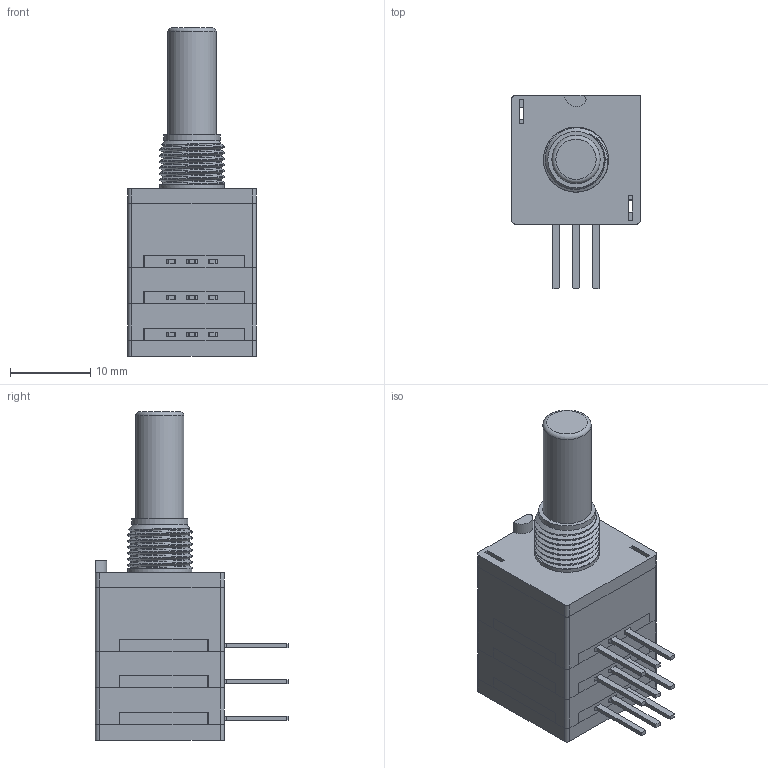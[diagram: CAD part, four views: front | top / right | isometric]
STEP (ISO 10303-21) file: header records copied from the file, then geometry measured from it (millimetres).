
FILE_DESCRIPTION(('FreeCAD Model'),'2;1');
FILE_NAME('Open CASCADE Shape Model','2023-03-24T11:03:38',(''),(''), 'Open CASCADE STEP processor 7.6','FreeCAD','Unknown');
FILE_SCHEMA(('AUTOMOTIVE_DESIGN { 1 0 10303 214 1 1 1 1 }'));
Length unit declared in the file: millimetre
Products named in the file (1): Fusion016
Bounding box: 16 x 24 x 40.8 mm (x, y, z)
Volume: 5799.9 mm3; surface area: 3210.7 mm2
Topology: 1 solids, 6 shells, 326 faces, 799 edges, 485 vertices
Faces by surface type: plane 231, cylinder 68, bspline 24, cone 2, torus 1
Full cylindrical faces by diameter (mm): 4.2 x3, 6 x2, 6.02 x2, 7 x1, 8 x1, 8.08 x6
Entity records: 26527 total; most frequent: CARTESIAN_POINT 9904, DIRECTION 2530, LINE 1616, VECTOR 1616, ORIENTED_EDGE 1596, PCURVE 1596, DEFINITIONAL_REPRESENTATION 1596, EDGE_CURVE 798
